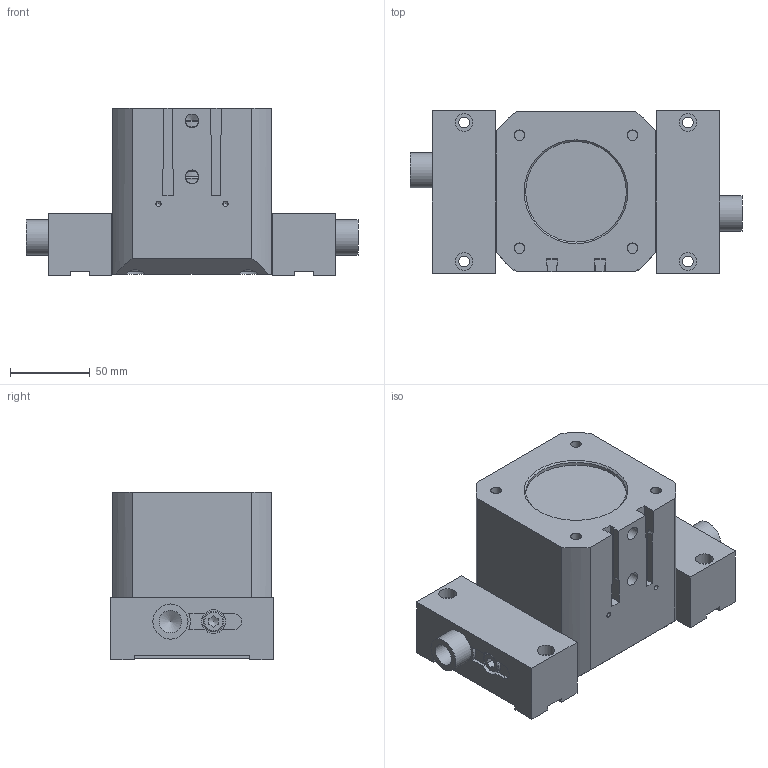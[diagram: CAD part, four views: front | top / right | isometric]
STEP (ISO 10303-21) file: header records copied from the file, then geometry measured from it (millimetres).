
FILE_DESCRIPTION((''),'2;1');
FILE_NAME('T:\CAD\Standard\Daten\3D-Datenbank\GP\4 - 3D-CAD-Daten GP 050-125\GP125\step-Daten\G-GP125-l1-GS+UB closed.stp','2013-11-07T13:17:27',('Dirk'),(''),'Autodesk Inventor 2011','Autodesk Inventor 2011','');
FILE_SCHEMA(('AUTOMOTIVE_DESIGN { 1 0 10303 214 1 1 1 1 }'));
Length unit declared in the file: millimetre
Products named in the file (1): Bauteil65
Bounding box: 207.83 x 102 x 105 mm (x, y, z)
Volume: 1130913 mm3; surface area: 191688.9 mm2
Topology: 1 solids, 16 shells, 411 faces, 1038 edges, 673 vertices
Faces by surface type: plane 238, cylinder 112, cone 36, torus 24, bspline 1
Full cylindrical faces by diameter (mm): 3.242 x2, 6.647 x10, 8 x6, 8.566 x2, 9 x6, 10.106 x1, 11 x4, 12 x1, 13 x7, 14 x2, 15 x8, 22 x8, 24 x1, 25 x7, 28 x1, 31.4 x2, 37 x2, 52 x2, 60 x2, 63 x1, 70.2 x1, 77.1 x2, 80 x5
Entity records: 12671 total; most frequent: CARTESIAN_POINT 3162, DIRECTION 1890, ORIENTED_EDGE 1662, EDGE_CURVE 831, AXIS2_PLACEMENT_3D 731, EDGE_LOOP 627, VERTEX_POINT 603, VECTOR 428
